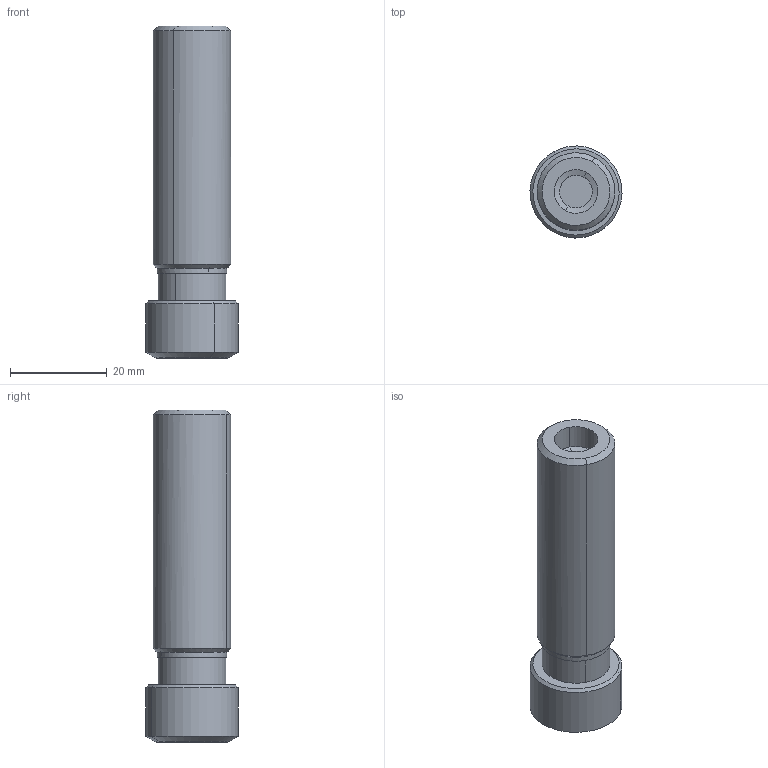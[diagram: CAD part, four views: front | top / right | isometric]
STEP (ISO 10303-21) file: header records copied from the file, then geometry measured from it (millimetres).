
FILE_DESCRIPTION(('CATIA V5 STEP','CAx-IF Rec.Pracs.--- Model Styling and Organization---1.2---2011-12-15'),'2;1');
FILE_NAME('\\nas01\drv1\utils\eitdev\rte\eit\transmagicconvert\db\out\635949243402520219\4507050 LM.stp','2016-03-30T05:45:54+00:00',('none'),('none'),'CATIA Version 5 Release 21 SP 5 (IN-10)','CATIA V5 STEP AP214','none');
FILE_SCHEMA(('AUTOMOTIVE_DESIGN { 1 0 10303 214 1 1 1 1 }'));
Length unit declared in the file: millimetre
Products named in the file (1): ST 16X 50 ER11 F
Bounding box: 18.99 x 18.99 x 68.5 mm (x, y, z)
Volume: 12032.2 mm3; surface area: 5091.1 mm2
Topology: 1 solids, 1 shells, 41 faces, 86 edges, 52 vertices
Faces by surface type: cylinder 16, cone 14, plane 7, extrusion 2, torus 2
Entity records: 1111 total; most frequent: CARTESIAN_POINT 278, ORIENTED_EDGE 172, DIRECTION 136, EDGE_CURVE 86, AXIS2_PLACEMENT_3D 77, VERTEX_POINT 52, CIRCLE 50, EDGE_LOOP 46
